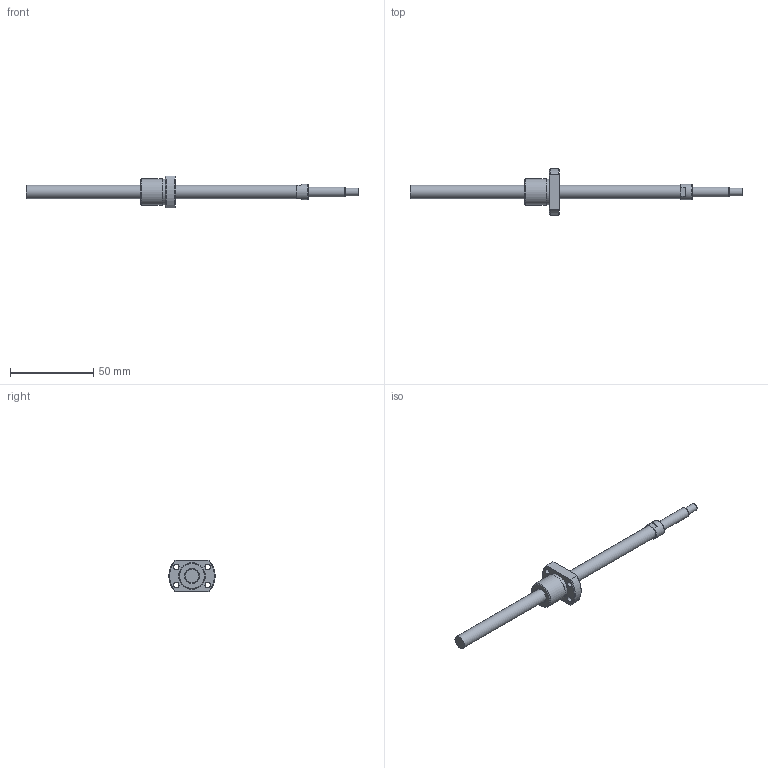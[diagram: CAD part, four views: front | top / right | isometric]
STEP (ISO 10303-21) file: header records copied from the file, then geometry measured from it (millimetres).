
FILE_DESCRIPTION(/* description */ ('STEP AP214'),/* implementation_level */ '2;1');
FILE_NAME(/* name */ 'NSGF0802Z-159R200C3-0-T-S-T-A-(69-S)',/* time_stamp */ '2026-08-24T20:11:32+02:00',/* author */ ('License CC BY-ND 4.0'),/* organization */ ('CADENAS'),/* preprocessor_version */ 'ST-DEVELOPER v20',/* originating_system */ 'PARTsolutions',/* authorisation */ ' ');
FILE_SCHEMA (('FEATURE_BASED_PROCESS_PLANNING','PROCESS_PLANNING_SCHEMA','AUTOMOTIVE_DESIGN {1 0 10303 214 3 1 1}'));
Length unit declared in the file: millimetre
Products named in the file (3): NSGF0802Z-159R200C3-0-T-S-T-A-(69-S); NSG0802Z-159R20023_(T-S_T-A_2)-2; NSGF0802Z-1
Assembly tree (2 placements, depth 2):
  NSGF0802Z-159R200C3-0-T-S-T-A-(69-S)
    NSG0802Z-159R20023_(T-S_T-A_2)-2
    NSGF0802Z-1
Bounding box: 200 x 27.9 x 19 mm (x, y, z)
Volume: 13551.7 mm3; surface area: 7865.4 mm2
Topology: 2 solids, 2 shells, 40 faces, 88 edges, 57 vertices
Faces by surface type: plane 17, cylinder 14, cone 8, torus 1
Full cylindrical faces by diameter (mm): 3.4 x4, 4.5 x1, 6 x1, 8 x2, 9.5 x1, 13 x1, 15.5 x1, 16 x1
Entity records: 1095 total; most frequent: CARTESIAN_POINT 187, DIRECTION 186, ORIENTED_EDGE 134, AXIS2_PLACEMENT_3D 84, EDGE_LOOP 72, FACE_BOUND 72, EDGE_CURVE 67, VERTEX_POINT 53
